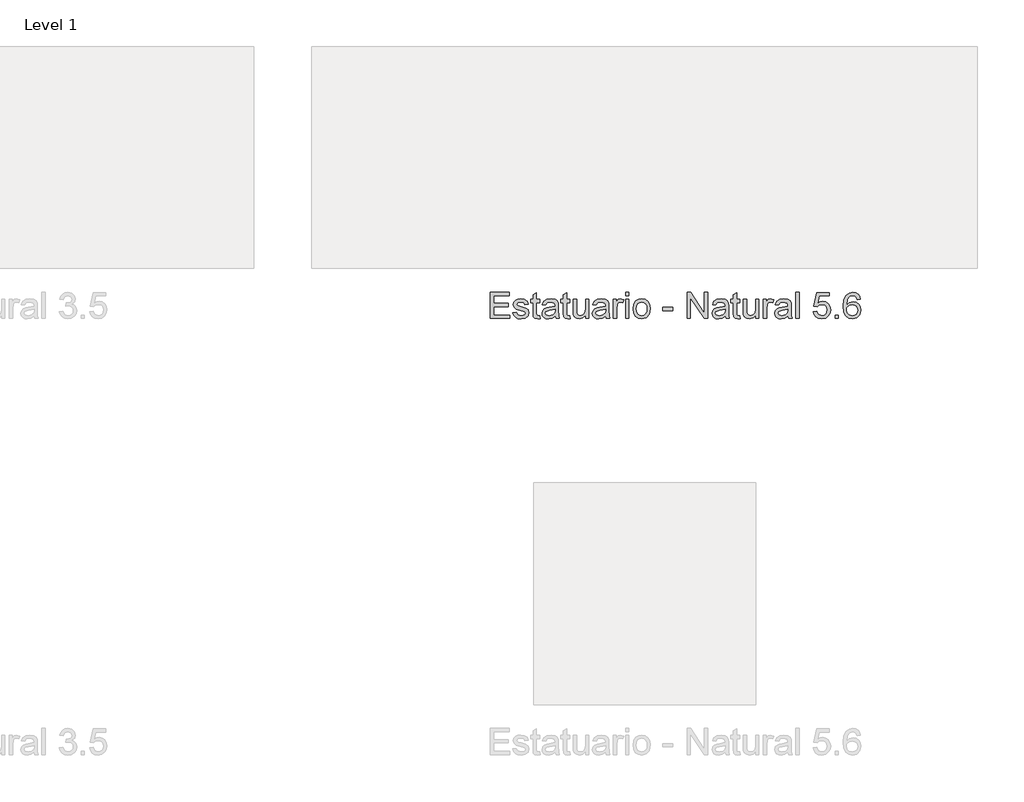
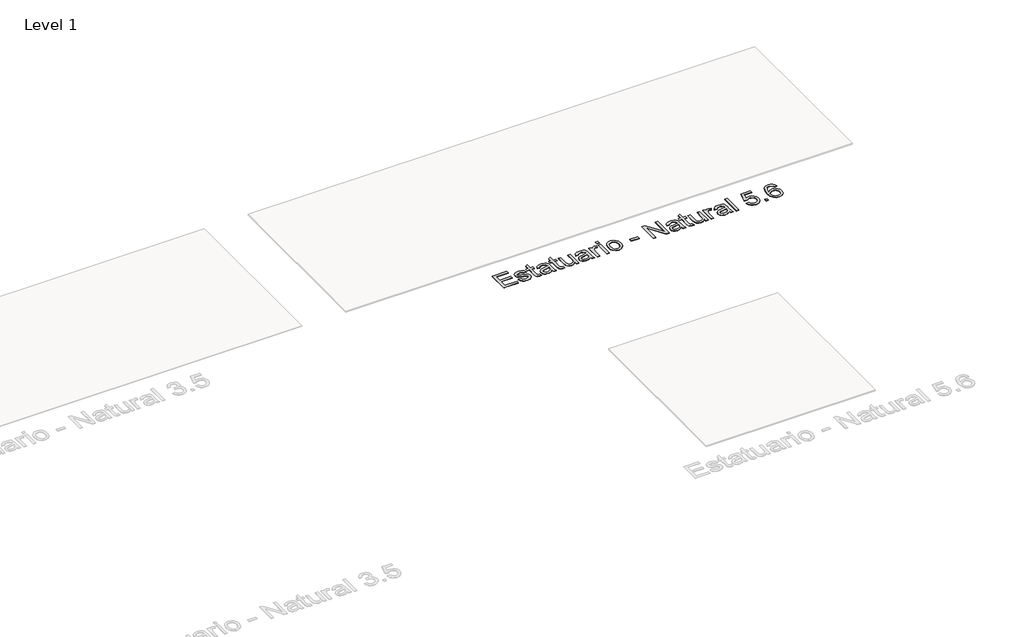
# One storey, part 80 of 80: 1 proxy.
"""IFC4 building model written with IfcOpenShell, lengths in millimetres."""

from ifc_helpers import new_model, si_unit, origin, origin_with_axes, place, context, project, spatial, polyline, outline, extrude, element, save

model = new_model("IFC4")

# Units and contexts
model_context = context("Model", 3, world=origin())
ifc_project = project(units=[si_unit("LENGTHUNIT", "METRE", prefix="MILLI")], contexts=[model_context])

# Site, building, storey
site = spatial("IfcSite", under=ifc_project)
building = spatial("IfcBuilding", under=site)
storey = spatial("IfcBuildingStorey", under=building, Name="Level 1", Elevation=0.0)

# Proxy
placement = place(None, origin())
element("IfcBuildingElementProxy", 1, Name="24\" Arial", ObjectType="24\" Arial", at=placement, inside=storey, context=model_context, shape_type="SweptSolid", body=[
    extrude(outline(polyline([(15900.3085075, 19224.0250725), (15900.3085075, 19342.1789187), (15985.2315844, 19342.1789187), (15985.2315844, 19327.4096879), (15915.0777383, 19327.4096879), (15915.0777383, 19292.3327648), (15981.5392767, 19292.3327648), (15981.5392767, 19277.563534), (15915.0777383, 19277.563534), (15915.0777383, 19238.7943033), (15987.0777383, 19238.7943033), (15987.0777383, 19224.0250725), (15900.3085075, 19224.0250725)])), origin_with_axes(), (0.0, 0.0, 1.0), 2.0),
    extrude(outline(polyline([(16001.846969, 19249.8712264), (16016.6161998, 19251.7173802), (16023.4527383, 19240.7558417), (16039.1161998, 19236.9481494), (16054.1738921, 19240.438534), (16059.0777383, 19248.6308417), (16054.1450459, 19255.2654571), (16038.9431229, 19259.4769956), (16016.7027383, 19266.7029571), (16006.9960075, 19275.1404571), (16003.6931229, 19287.0539187), (16006.346969, 19298.0587264), (16013.5873536, 19306.4673802), (16022.9767767, 19310.8375725), (16035.6835075, 19312.6404571), (16053.6546613, 19309.7414187), (16065.0777383, 19301.8952648), (16070.1546613, 19288.6404571), (16055.3854306, 19286.7943033), (16049.8325459, 19294.9433417), (16036.8373536, 19297.8712264), (16022.7027383, 19295.0731494), (16018.4623536, 19288.5539187), (16020.221969, 19284.2558417), (16025.7315844, 19280.9962264), (16038.4527383, 19277.8519956), (16060.1306229, 19270.9000725), (16070.1979306, 19263.0250725), (16073.846969, 19250.188534), (16069.5633152, 19236.0539187), (16057.2027383, 19225.799111), (16038.9142767, 19222.1789187), (16024.0224498, 19223.924111), (16013.1546613, 19229.1596879), (16005.8998536, 19237.8279571), (16001.846969, 19249.8712264)])), origin_with_axes(), (0.0, 0.0, 1.0), 2.0),
    extrude(outline(polyline([(16121.846969, 19236.3423802), (16123.6931229, 19223.5923802), (16112.6450459, 19222.1789187), (16100.2700459, 19224.6308417), (16094.096969, 19231.063534), (16092.3085075, 19247.8231494), (16092.3085075, 19296.0250725), (16081.2315844, 19296.0250725), (16081.2315844, 19310.7943033), (16092.3085075, 19310.7943033), (16092.3085075, 19331.8808417), (16107.0777383, 19340.563534), (16107.0777383, 19310.7943033), (16121.846969, 19310.7943033), (16121.846969, 19296.0250725), (16107.0777383, 19296.0250725), (16107.0777383, 19248.2558417), (16107.8565844, 19240.6404571), (16110.3806229, 19237.9433417), (16115.4142767, 19236.9481494), (16121.846969, 19236.3423802)])), origin_with_axes(), (0.0, 0.0, 1.0), 2.0),
    extrude(outline(polyline([(16192.0008152, 19235.1019956), (16177.6786998, 19225.0923802), (16161.8565844, 19222.1789187), (16149.5140363, 19223.9313225), (16140.409469, 19229.188534), (16134.7952863, 19237.1717071), (16132.9238921, 19247.1019956), (16135.7508152, 19258.7846879), (16143.1786998, 19267.2654571), (16153.5200459, 19272.111611), (16166.2988921, 19274.3327648), (16191.9142767, 19279.4096879), (16192.0008152, 19282.6981494), (16187.9335075, 19293.6019956), (16171.6065844, 19297.8712264), (16156.6642767, 19295.0298802), (16149.5392767, 19284.9481494), (16134.7700459, 19286.7943033), (16141.159469, 19301.2173802), (16154.0248536, 19309.6693033), (16173.5104306, 19312.6404571), (16191.409469, 19310.0154571), (16201.5200459, 19303.424111), (16206.0488921, 19293.4000725), (16206.7700459, 19280.4769956), (16206.7700459, 19262.1019956), (16207.5200459, 19236.4433417), (16210.4623536, 19224.0250725), (16195.6931229, 19224.0250725), (16192.0008152, 19235.1019956)]), holes=[polyline([(16192.0008152, 19264.6404571), (16168.1738921, 19260.111611), (16155.4671613, 19257.7173802), (16149.7123536, 19253.8231494), (16147.6931229, 19248.1404571), (16152.0921613, 19240.1500725), (16165.0008152, 19236.9481494), (16179.9431229, 19240.4818033), (16189.5777383, 19249.0346879), (16191.9142767, 19260.4577648), (16192.0008152, 19264.6404571)])]), origin_with_axes(), (0.0, 0.0, 1.0), 2.0),
    extrude(outline(polyline([(16258.4623536, 19236.3423802), (16260.3085075, 19223.5923802), (16249.2604306, 19222.1789187), (16236.8854306, 19224.6308417), (16230.7123536, 19231.063534), (16228.9238921, 19247.8231494), (16228.9238921, 19296.0250725), (16217.846969, 19296.0250725), (16217.846969, 19310.7943033), (16228.9238921, 19310.7943033), (16228.9238921, 19331.8808417), (16243.6931229, 19340.563534), (16243.6931229, 19310.7943033), (16258.4623536, 19310.7943033), (16258.4623536, 19296.0250725), (16243.6931229, 19296.0250725), (16243.6931229, 19248.2558417), (16244.471969, 19240.6404571), (16246.9960075, 19237.9433417), (16252.0296613, 19236.9481494), (16258.4623536, 19236.3423802)])), origin_with_axes(), (0.0, 0.0, 1.0), 2.0),
    extrude(outline(polyline([(16328.6161998, 19224.0250725), (16328.6161998, 19238.938534), (16317.0488921, 19226.3688225), (16301.9623536, 19222.1789187), (16288.0729306, 19225.1212264), (16278.4960075, 19232.5058417), (16274.096969, 19243.3808417), (16273.2315844, 19257.111611), (16273.2315844, 19310.7943033), (16288.0008152, 19310.7943033), (16288.0008152, 19264.063534), (16288.8950459, 19249.0058417), (16294.7363921, 19240.1644956), (16305.7411998, 19236.9481494), (16318.0729306, 19240.236611), (16326.221969, 19249.1933417), (16328.6161998, 19265.6500725), (16328.6161998, 19310.7943033), (16343.3854306, 19310.7943033), (16343.3854306, 19224.0250725), (16328.6161998, 19224.0250725)])), origin_with_axes(), (0.0, 0.0, 1.0), 2.0),
    extrude(outline(polyline([(16419.0777383, 19235.1019956), (16404.7556229, 19225.0923802), (16388.9335075, 19222.1789187), (16376.5909594, 19223.9313225), (16367.4863921, 19229.188534), (16361.8722094, 19237.1717071), (16360.0008152, 19247.1019956), (16362.8277383, 19258.7846879), (16370.2556229, 19267.2654571), (16380.596969, 19272.111611), (16393.3758152, 19274.3327648), (16418.9911998, 19279.4096879), (16419.0777383, 19282.6981494), (16415.0104306, 19293.6019956), (16398.6835075, 19297.8712264), (16383.7411998, 19295.0298802), (16376.6161998, 19284.9481494), (16361.846969, 19286.7943033), (16368.2363921, 19301.2173802), (16381.1017767, 19309.6693033), (16400.5873536, 19312.6404571), (16418.4863921, 19310.0154571), (16428.596969, 19303.424111), (16433.1258152, 19293.4000725), (16433.846969, 19280.4769956), (16433.846969, 19262.1019956), (16434.596969, 19236.4433417), (16437.5392767, 19224.0250725), (16422.7700459, 19224.0250725), (16419.0777383, 19235.1019956)]), holes=[polyline([(16419.0777383, 19264.6404571), (16395.2508152, 19260.111611), (16382.5440844, 19257.7173802), (16376.7892767, 19253.8231494), (16374.7700459, 19248.1404571), (16379.1690844, 19240.1500725), (16392.0777383, 19236.9481494), (16407.0200459, 19240.4818033), (16416.6546613, 19249.0346879), (16418.9911998, 19260.4577648), (16419.0777383, 19264.6404571)])]), origin_with_axes(), (0.0, 0.0, 1.0), 2.0),
    extrude(outline(polyline([(16454.1546613, 19224.0250725), (16454.1546613, 19310.7943033), (16467.0777383, 19310.7943033), (16467.0777383, 19297.9577648), (16476.2508152, 19309.7846879), (16485.4815844, 19312.6404571), (16500.3085075, 19308.0827648), (16495.3758152, 19294.8423802), (16484.9911998, 19297.8712264), (16476.6402383, 19294.9577648), (16471.3181229, 19286.8808417), (16468.9238921, 19269.6308417), (16468.9238921, 19224.0250725), (16454.1546613, 19224.0250725)])), origin_with_axes(), (0.0, 0.0, 1.0), 2.0),
    extrude(outline(polyline([(16509.5392767, 19327.4096879), (16509.5392767, 19342.1789187), (16524.3085075, 19342.1789187), (16524.3085075, 19327.4096879), (16509.5392767, 19327.4096879)])), origin_with_axes(), (0.0, 0.0, 1.0), 2.0),
    extrude(outline(polyline([(16509.5392767, 19224.0250725), (16509.5392767, 19310.7943033), (16524.3085075, 19310.7943033), (16524.3085075, 19224.0250725), (16509.5392767, 19224.0250725)])), origin_with_axes(), (0.0, 0.0, 1.0), 2.0),
    extrude(outline(polyline([(16542.7700459, 19267.4096879), (16545.9647575, 19288.330361), (16555.5488921, 19303.0346879), (16567.3902383, 19310.2390148), (16581.5681229, 19312.6404571), (16597.0837479, 19309.7161783), (16609.4767767, 19300.9433417), (16617.6005748, 19287.0142552), (16620.3085075, 19268.6212264), (16615.5200459, 19242.3423802), (16601.5729306, 19227.4721879), (16581.5681229, 19222.1789187), (16565.8649979, 19225.0923802), (16553.4863921, 19233.8327648), (16545.4491325, 19248.0539187), (16542.7700459, 19267.4096879)]), holes=[polyline([(16557.5392767, 19267.438534), (16559.2484113, 19254.0719475), (16564.3758152, 19244.549111), (16572.0921613, 19238.8483898), (16581.5681229, 19236.9481494), (16591.0008152, 19238.8592071), (16598.7027383, 19244.5923802), (16603.8301421, 19254.2414187), (16605.5392767, 19267.9000725), (16603.8193248, 19280.877236), (16598.659469, 19290.2702648), (16590.9467286, 19295.970986), (16581.5681229, 19297.8712264), (16572.0921613, 19295.9781975), (16564.3758152, 19290.299111), (16559.2484113, 19280.797909), (16557.5392767, 19267.438534)])]), origin_with_axes(), (0.0, 0.0, 1.0), 2.0),
    extrude(outline(polyline([(16675.6931229, 19259.1019956), (16675.6931229, 19273.8712264), (16721.846969, 19273.8712264), (16721.846969, 19259.1019956), (16675.6931229, 19259.1019956)])), origin_with_axes(), (0.0, 0.0, 1.0), 2.0),
    extrude(outline(polyline([(16786.4623536, 19224.0250725), (16786.4623536, 19342.1789187), (16802.2700459, 19342.1789187), (16864.0008152, 19248.5731494), (16864.0008152, 19342.1789187), (16878.7700459, 19342.1789187), (16878.7700459, 19224.0250725), (16862.9623536, 19224.0250725), (16801.2315844, 19317.6596879), (16801.2315844, 19224.0250725), (16786.4623536, 19224.0250725)])), origin_with_axes(), (0.0, 0.0, 1.0), 2.0),
    extrude(outline(polyline([(16958.1546613, 19235.1019956), (16943.8325459, 19225.0923802), (16928.0104306, 19222.1789187), (16915.6678825, 19223.9313225), (16906.5633152, 19229.188534), (16900.9491325, 19237.1717071), (16899.0777383, 19247.1019956), (16901.9046613, 19258.7846879), (16909.3325459, 19267.2654571), (16919.6738921, 19272.111611), (16932.4527383, 19274.3327648), (16958.0681229, 19279.4096879), (16958.1546613, 19282.6981494), (16954.0873536, 19293.6019956), (16937.7604306, 19297.8712264), (16922.8181229, 19295.0298802), (16915.6931229, 19284.9481494), (16900.9238921, 19286.7943033), (16907.3133152, 19301.2173802), (16920.1786998, 19309.6693033), (16939.6642767, 19312.6404571), (16957.5633152, 19310.0154571), (16967.6738921, 19303.424111), (16972.2027383, 19293.4000725), (16972.9238921, 19280.4769956), (16972.9238921, 19262.1019956), (16973.6738921, 19236.4433417), (16976.6161998, 19224.0250725), (16961.846969, 19224.0250725), (16958.1546613, 19235.1019956)]), holes=[polyline([(16958.1546613, 19264.6404571), (16934.3277383, 19260.111611), (16921.6210075, 19257.7173802), (16915.8661998, 19253.8231494), (16913.846969, 19248.1404571), (16918.2460075, 19240.1500725), (16931.1546613, 19236.9481494), (16946.096969, 19240.4818033), (16955.7315844, 19249.0346879), (16958.0681229, 19260.4577648), (16958.1546613, 19264.6404571)])]), origin_with_axes(), (0.0, 0.0, 1.0), 2.0),
    extrude(outline(polyline([(17024.6161998, 19236.3423802), (17026.4623536, 19223.5923802), (17015.4142767, 19222.1789187), (17003.0392767, 19224.6308417), (16996.8661998, 19231.063534), (16995.0777383, 19247.8231494), (16995.0777383, 19296.0250725), (16984.0008152, 19296.0250725), (16984.0008152, 19310.7943033), (16995.0777383, 19310.7943033), (16995.0777383, 19331.8808417), (17009.846969, 19340.563534), (17009.846969, 19310.7943033), (17024.6161998, 19310.7943033), (17024.6161998, 19296.0250725), (17009.846969, 19296.0250725), (17009.846969, 19248.2558417), (17010.6258152, 19240.6404571), (17013.1498536, 19237.9433417), (17018.1835075, 19236.9481494), (17024.6161998, 19236.3423802)])), origin_with_axes(), (0.0, 0.0, 1.0), 2.0),
    extrude(outline(polyline([(17094.7700459, 19224.0250725), (17094.7700459, 19238.938534), (17083.2027383, 19226.3688225), (17068.1161998, 19222.1789187), (17054.2267767, 19225.1212264), (17044.6498536, 19232.5058417), (17040.2508152, 19243.3808417), (17039.3854306, 19257.111611), (17039.3854306, 19310.7943033), (17054.1546613, 19310.7943033), (17054.1546613, 19264.063534), (17055.0488921, 19249.0058417), (17060.8902383, 19240.1644956), (17071.8950459, 19236.9481494), (17084.2267767, 19240.236611), (17092.3758152, 19249.1933417), (17094.7700459, 19265.6500725), (17094.7700459, 19310.7943033), (17109.5392767, 19310.7943033), (17109.5392767, 19224.0250725), (17094.7700459, 19224.0250725)])), origin_with_axes(), (0.0, 0.0, 1.0), 2.0),
    extrude(outline(polyline([(17129.846969, 19224.0250725), (17129.846969, 19310.7943033), (17142.7700459, 19310.7943033), (17142.7700459, 19297.9577648), (17151.9431229, 19309.7846879), (17161.1738921, 19312.6404571), (17176.0008152, 19308.0827648), (17171.0681229, 19294.8423802), (17160.6835075, 19297.8712264), (17152.3325459, 19294.9577648), (17147.0104306, 19286.8808417), (17144.6161998, 19269.6308417), (17144.6161998, 19224.0250725), (17129.846969, 19224.0250725)])), origin_with_axes(), (0.0, 0.0, 1.0), 2.0),
    extrude(outline(polyline([(17240.6161998, 19235.1019956), (17226.2940844, 19225.0923802), (17210.471969, 19222.1789187), (17198.1294209, 19223.9313225), (17189.0248536, 19229.188534), (17183.4106709, 19237.1717071), (17181.5392767, 19247.1019956), (17184.3661998, 19258.7846879), (17191.7940844, 19267.2654571), (17202.1354306, 19272.111611), (17214.9142767, 19274.3327648), (17240.5296613, 19279.4096879), (17240.6161998, 19282.6981494), (17236.5488921, 19293.6019956), (17220.221969, 19297.8712264), (17205.2796613, 19295.0298802), (17198.1546613, 19284.9481494), (17183.3854306, 19286.7943033), (17189.7748536, 19301.2173802), (17202.6402383, 19309.6693033), (17222.1258152, 19312.6404571), (17240.0248536, 19310.0154571), (17250.1354306, 19303.424111), (17254.6642767, 19293.4000725), (17255.3854306, 19280.4769956), (17255.3854306, 19262.1019956), (17256.1354306, 19236.4433417), (17259.0777383, 19224.0250725), (17244.3085075, 19224.0250725), (17240.6161998, 19235.1019956)]), holes=[polyline([(17240.6161998, 19264.6404571), (17216.7892767, 19260.111611), (17204.0825459, 19257.7173802), (17198.3277383, 19253.8231494), (17196.3085075, 19248.1404571), (17200.7075459, 19240.1500725), (17213.6161998, 19236.9481494), (17228.5585075, 19240.4818033), (17238.1931229, 19249.0346879), (17240.5296613, 19260.4577648), (17240.6161998, 19264.6404571)])]), origin_with_axes(), (0.0, 0.0, 1.0), 2.0),
    extrude(outline(polyline([(17275.6931229, 19224.0250725), (17275.6931229, 19342.1789187), (17290.4623536, 19342.1789187), (17290.4623536, 19224.0250725), (17275.6931229, 19224.0250725)])), origin_with_axes(), (0.0, 0.0, 1.0), 2.0),
    extrude(outline(polyline([(17355.0777383, 19255.4096879), (17369.846969, 19257.2558417), (17377.2892767, 19242.0394956), (17392.721969, 19236.9481494), (17403.3085075, 19238.7185821), (17411.2411998, 19244.0298802), (17416.1955267, 19252.2690629), (17417.846969, 19262.8231494), (17416.300094, 19272.7606494), (17411.659469, 19280.361611), (17403.8890363, 19285.1861302), (17392.9527383, 19286.7943033), (17379.9863921, 19284.2269956), (17371.6931229, 19277.563534), (17356.9238921, 19279.4096879), (17369.846969, 19340.3327648), (17427.0777383, 19340.3327648), (17427.0777383, 19325.563534), (17381.7892767, 19325.563534), (17375.471969, 19293.0250725), (17386.0224498, 19299.4289187), (17397.0777383, 19301.563534), (17410.8770171, 19298.9168994), (17422.3325459, 19290.9769956), (17430.0452863, 19278.876034), (17432.6161998, 19263.7462264), (17430.3012959, 19248.9769956), (17423.3565844, 19236.3423802), (17410.0585075, 19225.719784), (17392.6642767, 19222.1789187), (17378.1582671, 19224.454159), (17366.6017767, 19231.2798802), (17358.6799017, 19241.8628129), (17355.0777383, 19255.4096879)])), origin_with_axes(), (0.0, 0.0, 1.0), 2.0),
    extrude(outline(polyline([(17452.9238921, 19224.0250725), (17452.9238921, 19238.7943033), (17467.6931229, 19238.7943033), (17467.6931229, 19224.0250725), (17452.9238921, 19224.0250725)])), origin_with_axes(), (0.0, 0.0, 1.0), 2.0),
    extrude(outline(polyline([(17567.3854306, 19310.7943033), (17552.6161998, 19308.9481494), (17547.0200459, 19321.2654571), (17540.3205267, 19325.8736302), (17532.221969, 19327.4096879), (17518.8950459, 19323.8327648), (17508.8133152, 19310.4048802), (17504.6161998, 19284.0827648), (17517.6402383, 19295.8664187), (17533.7796613, 19299.7173802), (17547.4238921, 19297.0851687), (17558.8758152, 19289.188534), (17566.6426421, 19277.1236302), (17569.2315844, 19261.986611), (17564.3565844, 19241.6068033), (17550.9431229, 19227.1837264), (17531.5873536, 19222.1789187), (17514.831344, 19225.4962264), (17501.4863921, 19235.4481494), (17492.7568248, 19253.0154571), (17489.846969, 19279.1789187), (17493.0777383, 19308.594784), (17502.7700459, 19328.7077648), (17516.003219, 19338.8111302), (17533.1450459, 19342.1789187), (17546.1041806, 19340.094784), (17556.4815844, 19333.8423802), (17563.7508152, 19323.9120917), (17567.3854306, 19310.7943033)]), holes=[polyline([(17504.6161998, 19262.2173802), (17508.034469, 19249.424111), (17517.1210075, 19240.1356494), (17530.4335075, 19236.9481494), (17540.1799017, 19238.5995917), (17547.8421613, 19243.5539187), (17552.8073056, 19251.3423802), (17554.4623536, 19261.4962264), (17552.8289402, 19271.2426206), (17547.9286998, 19278.674111), (17540.1366325, 19283.3796398), (17529.8277383, 19284.9481494), (17520.0957671, 19283.3796398), (17511.9575459, 19278.674111), (17506.4515363, 19271.422909), (17504.6161998, 19262.2173802)])]), origin_with_axes(), (0.0, 0.0, 1.0), 2.0),
])

save(model, "model.ifc")
